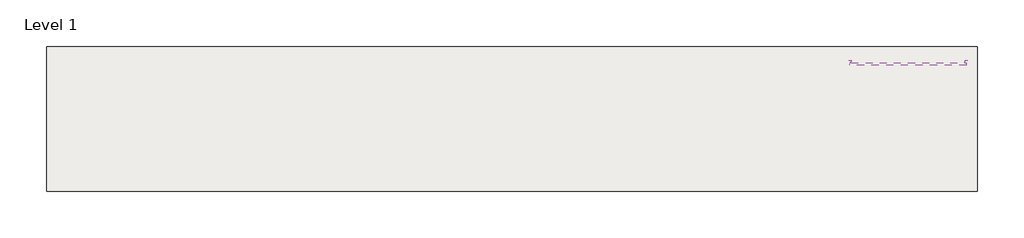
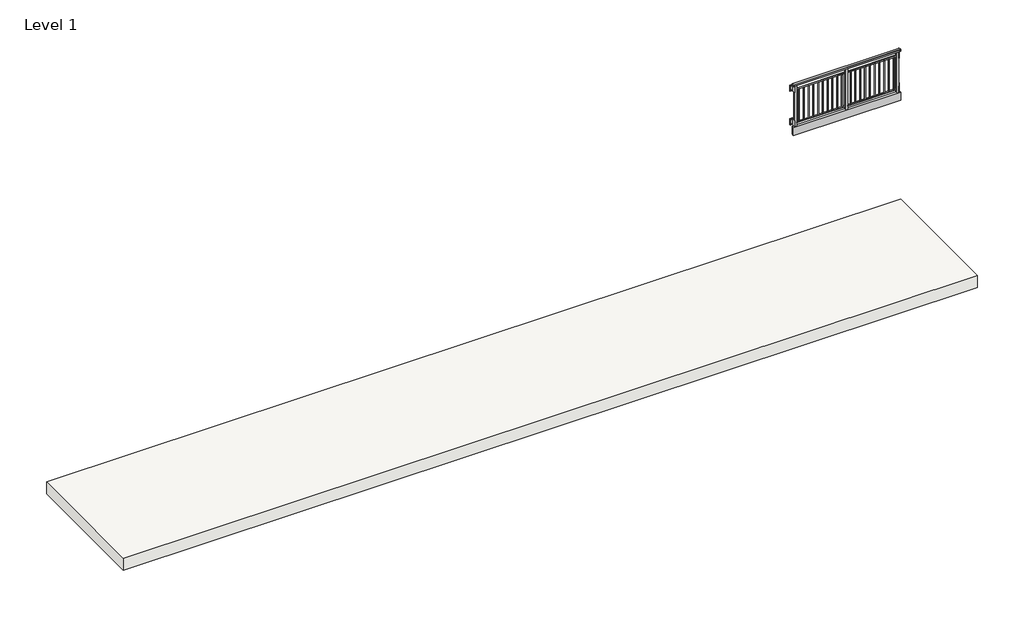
# One storey: 1 proxy, 1 slab.
"""IFC4 building model written with IfcOpenShell, lengths in millimetres."""

from ifc_helpers import new_model, si_unit, frame, origin, place, context, project, spatial, polyline, outline, extrude, transform, mapped, element, save
from components import specialty_equipment_468dc1dd

model = new_model("IFC4")

# Units and contexts
model_context = context("Model", 3, world=origin())
ifc_project = project(units=[si_unit("LENGTHUNIT", "METRE", prefix="MILLI")], contexts=[model_context])

# Site, building, storey
site = spatial("IfcSite", under=ifc_project)
building = spatial("IfcBuilding", under=site)
storey = spatial("IfcBuildingStorey", under=building, Name="Level 1", Elevation=-3048.0)

# Proxy
placement = place(None, origin())
specialty_equipment_shape = specialty_equipment_468dc1dd(model_context)
element("IfcBuildingElementProxy", 1, Name="Specialty-Equipment_Endurable-Building-Products_Juliet-Balconies : Open Midrail Picket Railing", ObjectType="Specialty-Equipment_Endurable-Building-Products_Juliet-Balconies : Open Midrail Picket Railing", at=placement, inside=storey, context=model_context, shape_type="MappedRepresentation", body=[
    mapped(specialty_equipment_shape, transform((10503.5836065, 1732.6002498, 0.0), x_axis=(1.0, 0.0, 0.0), y_axis=(0.0, 1.0, 0.0), z_axis=(0.0, 0.0, 1.0))),
])

# Slab
element("IfcSlab", 2, ObjectType="Generic - 12\"", at=placement, inside=storey, context=model_context, shape_type="SweptSolid", body=[
    extrude(outline(polyline([(12027.5836065, 2037.4002498), (12027.5836065, -1137.5997502), (-8394.0163935, -1137.5997502), (-8394.0163935, 2037.4002498), (12027.5836065, 2037.4002498)])), frame((0.0, 0.0, -3352.8), z_axis=(0.0, 0.0, 1.0), x_axis=(1.0, 0.0, 0.0)), (0.0, 0.0, 1.0), 304.8),
])

save(model, "model.ifc")
